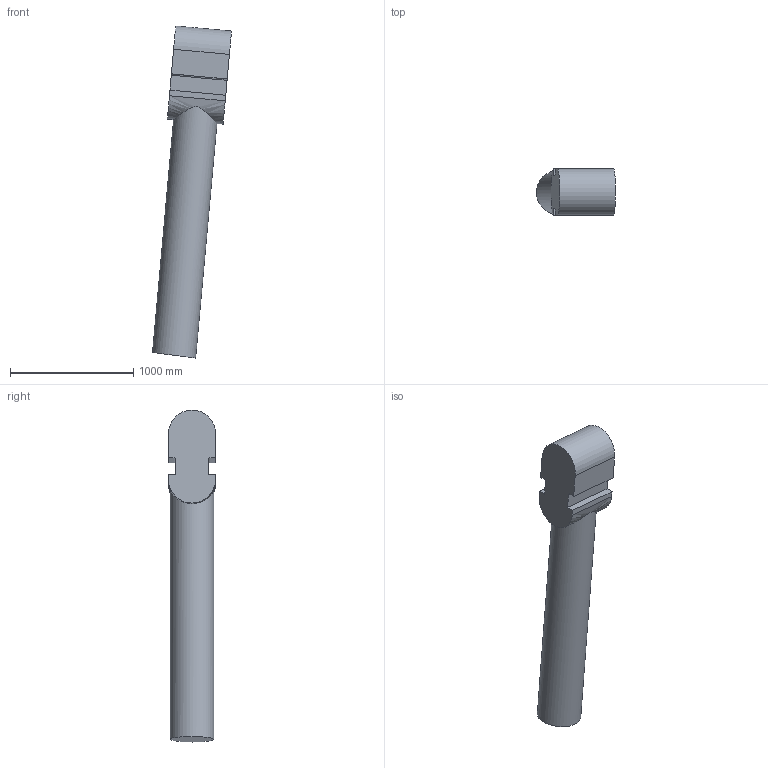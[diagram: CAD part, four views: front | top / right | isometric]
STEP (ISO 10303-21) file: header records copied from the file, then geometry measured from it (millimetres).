
FILE_DESCRIPTION(/* description */ (''),/* implementation_level */ '2;1');
FILE_NAME(/* name */ '14x22_mast_in_tunnel_5deg_mod.stp',/* time_stamp */ '2022-08-22T14:14:23-04:00',/* author */ (''),/* organization */ (''),/* preprocessor_version */ 'ST-DEVELOPER v16',/* originating_system */ 'SIEMENS PLM Software NX 10.0',/* authorisation */ '');
FILE_SCHEMA (('AP203_CONFIGURATION_CONTROLLED_3D_DESIGN_OF_MECHANICAL_PARTS_AND_ASSEMBLIES_MIM_LF { 1 0 10303 403 2 1 2}'));
Length unit declared in the file: millimetre
Products named in the file (1): sbry4E4082DFvl26
Bounding box: 642.67 x 380.56 x 2698.43 mm (x, y, z)
Volume: 300885113.2 mm3; surface area: 3640704.2 mm2
Topology: 1 solids, 1 shells, 18 faces, 46 edges, 31 vertices
Faces by surface type: plane 12, cylinder 3, bspline 3
Full cylindrical faces by diameter (mm): 354.33 x1
Entity records: 888 total; most frequent: CARTESIAN_POINT 372, ORIENTED_EDGE 88, DIRECTION 82, EDGE_CURVE 44, LINE 34, VECTOR 34, VERTEX_POINT 30, AXIS2_PLACEMENT_3D 24
